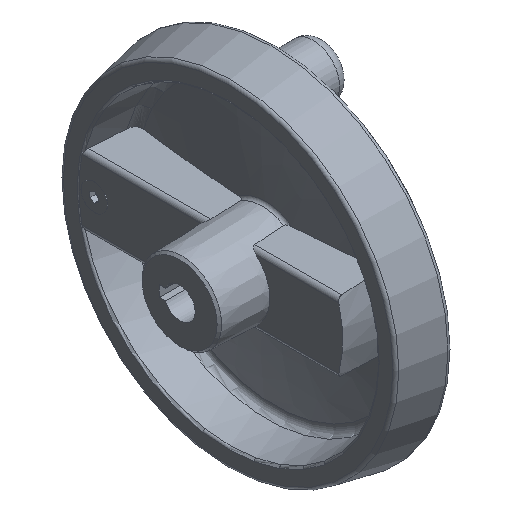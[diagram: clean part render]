
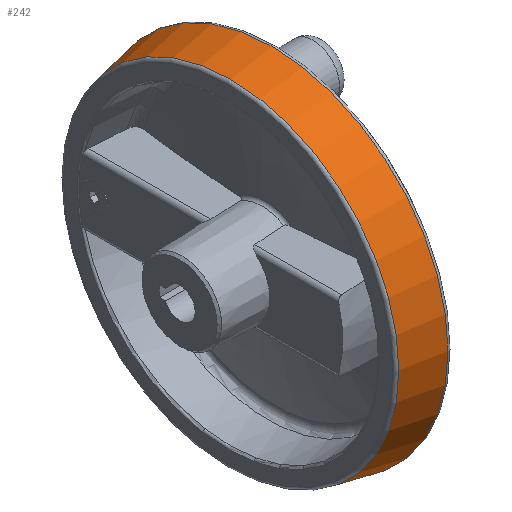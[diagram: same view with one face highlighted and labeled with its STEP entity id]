
A CAD part, isometric view. The second image highlights one B-rep face of the part: STEP entity #242.
In plain terms, the highlighted conical face has half-angle 10.883 degrees and reference radius 76.371 mm.
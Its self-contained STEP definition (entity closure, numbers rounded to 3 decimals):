
#242 = ADVANCED_FACE( '', ( #447, #448 ), #449, .T. );
#447 = FACE_OUTER_BOUND( '', #809, .T. );
#448 = FACE_BOUND( '', #810, .T. );
#449 = CONICAL_SURFACE( '', #811, 76.372, 0.19 );
#809 = EDGE_LOOP( '', ( #1499 ) );
#810 = EDGE_LOOP( '', ( #1500 ) );
#811 = AXIS2_PLACEMENT_3D( '', #1501, #1502, #1503 );
#1499 = ORIENTED_EDGE( '', *, *, #1941, .F. );
#1500 = ORIENTED_EDGE( '', *, *, #1942, .T. );
#1501 = CARTESIAN_POINT( '', ( 23.217, 0., 0. ) );
#1502 = DIRECTION( '', ( 1., 0., 0. ) );
#1503 = DIRECTION( '', ( 0., 0., -1. ) );
#1941 = EDGE_CURVE( '', #2310, #2310, #2311, .T. );
#1942 = EDGE_CURVE( '', #2312, #2312, #2313, .T. );
#2310 = VERTEX_POINT( '', #3230 );
#2311 = CIRCLE( '', #3231, 79.973 );
#2312 = VERTEX_POINT( '', #3232 );
#2313 = CIRCLE( '', #3233, 76.372 );
#3230 = CARTESIAN_POINT( '', ( 41.95, 0., -79.973 ) );
#3231 = AXIS2_PLACEMENT_3D( '', #3626, #3627, #3628 );
#3232 = CARTESIAN_POINT( '', ( 23.217, 0., -76.372 ) );
#3233 = AXIS2_PLACEMENT_3D( '', #3629, #3630, #3631 );
#3626 = CARTESIAN_POINT( '', ( 41.95, 0., 0. ) );
#3627 = DIRECTION( '', ( 1., 0., 0. ) );
#3628 = DIRECTION( '', ( 0., 0., -1. ) );
#3629 = CARTESIAN_POINT( '', ( 23.217, 0., 0. ) );
#3630 = DIRECTION( '', ( 1., 0., 0. ) );
#3631 = DIRECTION( '', ( 0., 0., -1. ) );
